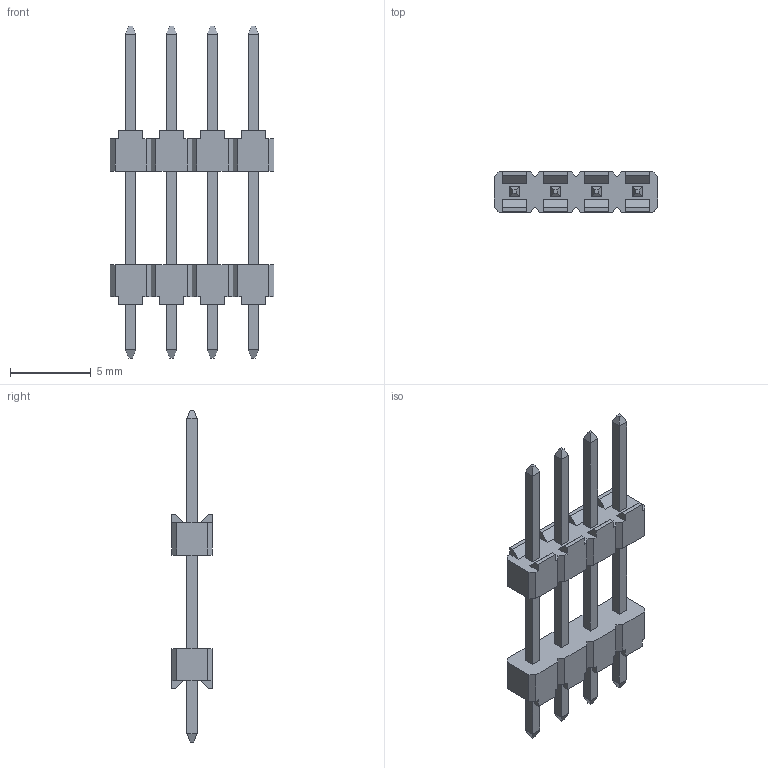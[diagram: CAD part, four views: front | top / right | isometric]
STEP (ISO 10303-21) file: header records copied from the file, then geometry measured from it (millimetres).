
FILE_DESCRIPTION(/* description */ (''),/* implementation_level */ '2;1');
FILE_NAME(/* name */ '961404-9041804-XX',/* time_stamp */ '2007-06-14T17:29:37+02:00',/* author */ (''),/* organization */ (''),/* preprocessor_version */ 'ST-DEVELOPER v9',/* originating_system */ 'UGS - NX 3.0',/* authorisation */ '');
FILE_SCHEMA (('AUTOMOTIVE_DESIGN { 1 0 10303 214 1 1 1 1 }'));
Length unit declared in the file: millimetre
Products named in the file (1): 961404-9041804-XX
Bounding box: 10.16 x 2.5 x 20.6 mm (x, y, z)
Volume: 130.6 mm3; surface area: 387.9 mm2
Topology: 1 solids, 1 shells, 228 faces, 616 edges, 400 vertices
Faces by surface type: plane 228
Entity records: 7000 total; most frequent: CARTESIAN_POINT 1245, ORIENTED_EDGE 1232, DIRECTION 1074, EDGE_CURVE 616, LINE 616, VECTOR 616, VERTEX_POINT 400, EDGE_LOOP 244
